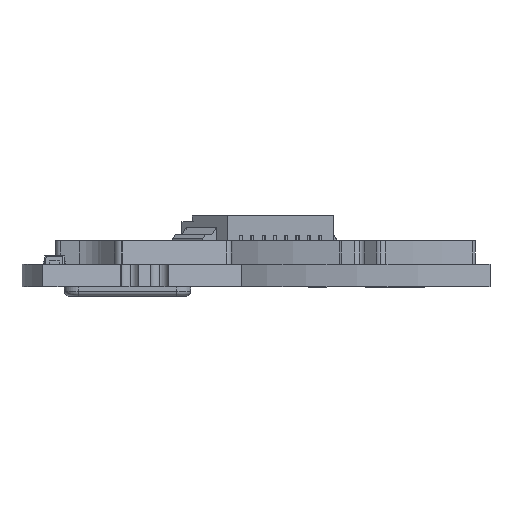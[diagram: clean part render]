
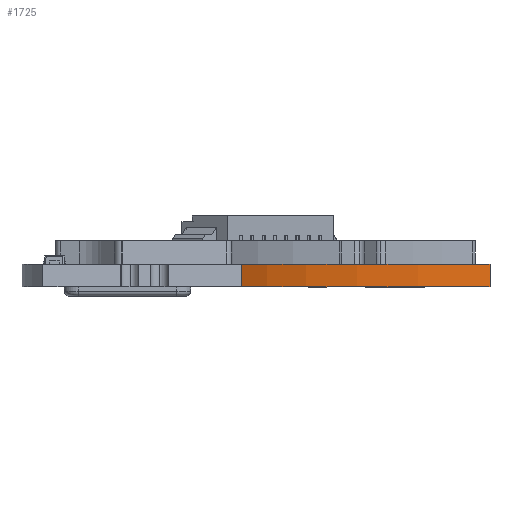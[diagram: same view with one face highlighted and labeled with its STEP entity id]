
A CAD part, left-side view. The second image highlights one B-rep face of the part: STEP entity #1725.
In plain terms, the highlighted cylindrical face has radius 48 mm (diameter 96 mm), a partial arc.
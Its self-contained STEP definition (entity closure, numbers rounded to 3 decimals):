
#1725 = ADVANCED_FACE ( 'NONE', ( #31417 ), #21586, .F. ) ;
#4096 = ORIENTED_EDGE ( 'NONE', *, *, #25238, .F. ) ;
#5500 = DIRECTION ( 'NONE',  ( 0., 0., 1. ) ) ;
#5549 = DIRECTION ( 'NONE',  ( 0.793, 0.609, 0. ) ) ;
#7915 = DIRECTION ( 'NONE',  ( 0.793, 0.609, 0. ) ) ;
#8605 = DIRECTION ( 'NONE',  ( 0., 0., -1. ) ) ;
#9974 = CARTESIAN_POINT ( 'NONE',  ( 38.081, 29.221, 0. ) ) ;
#11550 = CARTESIAN_POINT ( 'NONE',  ( 38.081, 29.221, -1.6 ) ) ;
#11711 = DIRECTION ( 'NONE',  ( 0.793, 0.609, 0. ) ) ;
#11771 = DIRECTION ( 'NONE',  ( 0., 0., 1. ) ) ;
#12316 = CARTESIAN_POINT ( 'NONE',  ( 0., 0., -1.6 ) ) ;
#13128 = AXIS2_PLACEMENT_3D ( 'NONE', #40503, #11771, #5549 ) ;
#13259 = EDGE_LOOP ( 'NONE', ( #31150, #27539, #15418, #4096 ) ) ;
#14264 = DIRECTION ( 'NONE',  ( 0., 0., 1. ) ) ;
#14596 = CIRCLE ( 'NONE', #23318, 48. ) ;
#14667 = LINE ( 'NONE', #31447, #39908 ) ;
#15418 = ORIENTED_EDGE ( 'NONE', *, *, #36696, .F. ) ;
#16513 = EDGE_CURVE ( 'NONE', #33532, #35533, #37728, .T. ) ;
#16768 = VECTOR ( 'NONE', #14264, 1000. ) ;
#20891 = VERTEX_POINT ( 'NONE', #38060 ) ;
#21586 = CYLINDRICAL_SURFACE ( 'NONE', #35989, 48. ) ;
#23098 = EDGE_CURVE ( 'NONE', #35533, #26406, #14596, .T. ) ;
#23318 = AXIS2_PLACEMENT_3D ( 'NONE', #40164, #27824, #7915 ) ;
#25238 = EDGE_CURVE ( 'NONE', #33532, #20891, #38634, .T. ) ;
#26406 = VERTEX_POINT ( 'NONE', #28753 ) ;
#27539 = ORIENTED_EDGE ( 'NONE', *, *, #23098, .T. ) ;
#27824 = DIRECTION ( 'NONE',  ( 0., 0., 1. ) ) ;
#28753 = CARTESIAN_POINT ( 'NONE',  ( -10.389, 46.862, 0. ) ) ;
#31150 = ORIENTED_EDGE ( 'NONE', *, *, #16513, .T. ) ;
#31417 = FACE_OUTER_BOUND ( 'NONE', #13259, .T. ) ;
#31447 = CARTESIAN_POINT ( 'NONE',  ( -10.389, 46.862, -1.6 ) ) ;
#32229 = CARTESIAN_POINT ( 'NONE',  ( 38.081, 29.221, -1.6 ) ) ;
#33532 = VERTEX_POINT ( 'NONE', #32229 ) ;
#35533 = VERTEX_POINT ( 'NONE', #9974 ) ;
#35989 = AXIS2_PLACEMENT_3D ( 'NONE', #12316, #8605, #11711 ) ;
#36696 = EDGE_CURVE ( 'NONE', #20891, #26406, #14667, .T. ) ;
#37728 = LINE ( 'NONE', #11550, #16768 ) ;
#38060 = CARTESIAN_POINT ( 'NONE',  ( -10.389, 46.862, -1.6 ) ) ;
#38634 = CIRCLE ( 'NONE', #13128, 48. ) ;
#39908 = VECTOR ( 'NONE', #5500, 1000. ) ;
#40164 = CARTESIAN_POINT ( 'NONE',  ( 0., 0., 0. ) ) ;
#40503 = CARTESIAN_POINT ( 'NONE',  ( 0., 0., -1.6 ) ) ;
